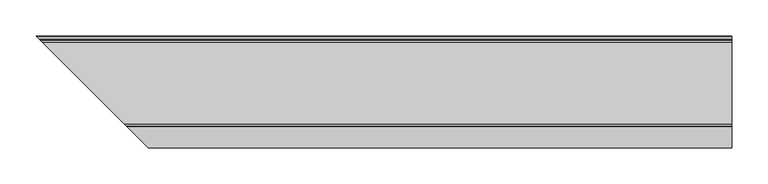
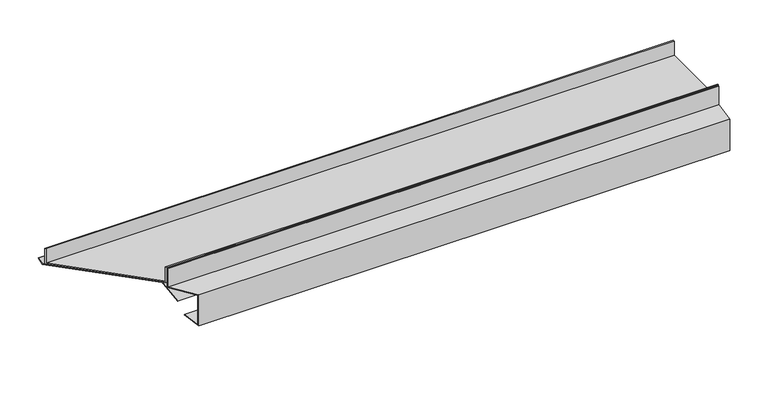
"""IFC4 building model written with IfcOpenShell, lengths in millimetres: proxy geometry, АК1_1 Примыкание к фундаментной балке : АК1_1 Примыкание к фундаментной балке."""

from ifc_helpers import new_model, si_unit, origin, place, context, project, spatial, faceted_brep, source, transform, mapped, element, save


def generic_models_938f7fc3(model_context):
    return source(origin(), model_context, "Body", "Brep", [
        faceted_brep([(-116.5, 116.5, 9.0), (-120.7449534, 120.7449534, 17.660254), (840.0, 120.7449534, 17.660254), (840.0, 116.5, 9.0), (-1.5, 1.5, 9.0), (840.0, 1.5, 9.0), (0.0, 0.0, 6.4019238), (840.0, 0.0, 6.4019238), (840.0, -13.5, -16.9807621), (13.5, -13.5, -16.9807621), (14.3660254, -14.3660254, -16.4807621), (840.0, -14.3660254, -16.4807621), (-0.9226497, 0.9226497, 10.0), (0.0, 0.0, 8.4019238), (840.0, 0.0, 8.4019238), (840.0, 0.9226497, 10.0), (-115.9226497, 115.9226497, 10.0), (840.0, 115.9226497, 10.0), (-119.8842356, 119.8842356, 18.0821477), (840.0, 119.8842356, 18.0821477)], [[[0, 1, 2, 3]], [[4, 0, 3, 5]], [[6, 4, 5, 7, 8, 9]], [[10, 9, 8, 11]], [[12, 13, 10, 11, 14, 15]], [[16, 12, 15, 17]], [[18, 16, 17, 19]], [[1, 18, 19, 2]], [[6, 13, 12, 16, 18, 1, 0, 4]], [[13, 6, 9, 10]], [[14, 7, 5, 3, 2, 19, 17, 15]], [[7, 14, 11, 8]]]),
        faceted_brep([(4.5, -4.5, 33.6294353), (4.5, -4.5, 3.6294353), (840.0, -4.5, 3.6294353), (840.0, -4.5, 33.6294353), (3.5, -3.5, 33.6294353), (840.0, -3.5, 33.6294353), (3.5, -3.5, 2.7903356), (840.0, -3.5, 2.7903356), (33.0442326, -33.0442326, -2.4191097), (840.0, -33.0442326, -2.4191097), (33.0442326, -33.0442326, -49.1657965), (840.0, -33.0442326, -49.1657965), (20.6092037, -20.6092037, -36.7307676), (840.0, -20.6092037, -36.7307676), (19.902097, -19.902097, -37.4378744), (840.0, -19.902097, -37.4378744), (34.0442326, -34.0442326, -51.58001), (840.0, -34.0442326, -51.58001), (34.0442326, -34.0442326, -1.58001), (840.0, -34.0442326, -1.58001)], [[[0, 1, 2, 3]], [[4, 0, 3, 5]], [[6, 4, 5, 7]], [[8, 6, 7, 9]], [[10, 8, 9, 11]], [[12, 10, 11, 13]], [[14, 12, 13, 15]], [[16, 14, 15, 17]], [[18, 16, 17, 19]], [[1, 18, 19, 2]], [[1, 0, 4, 6, 8, 10, 12, 14, 16, 18]], [[3, 2, 19, 17, 15, 13, 11, 9, 7, 5]]]),
        faceted_brep([(3.5, -3.5, 35.0), (3.5, -3.5, 10.0), (840.0, -3.5, 10.0), (840.0, -3.5, 35.0), (1.5, -1.5, 35.0), (840.0, -1.5, 35.0), (1.5, -1.5, 12.0), (840.0, -1.5, 12.0), (-112.5, 112.5, 12.0), (0.0, 0.0, 12.0), (840.0, 0.0, 12.0), (840.0, 112.5, 12.0), (-112.5, 112.5, 35.0), (840.0, 112.5, 35.0), (-114.5, 114.5, 35.0), (840.0, 114.5, 35.0), (-114.5, 114.5, 10.0), (840.0, 114.5, 10.0), (0.0, 0.0, 10.0), (840.0, 0.0, 10.0)], [[[0, 1, 2, 3]], [[4, 0, 3, 5]], [[6, 4, 5, 7]], [[8, 9, 6, 7, 10, 11]], [[12, 8, 11, 13]], [[14, 12, 13, 15]], [[16, 14, 15, 17]], [[18, 16, 17, 19, 2, 1]], [[9, 18, 1, 0, 4, 6]], [[19, 10, 7, 5, 3, 2]], [[18, 9, 8, 12, 14, 16]], [[10, 19, 17, 15, 13, 11]]]),
    ])


if __name__ == "__main__":
    model = new_model("IFC4")
    model_context = context("Model", 3, world=origin())
    ifc_project = project(units=[si_unit("LENGTHUNIT", "METRE", prefix="MILLI")], contexts=[model_context])
    site = spatial("IfcSite", under=ifc_project)
    building = spatial("IfcBuilding", under=site)
    placement = place(None, origin())
    generic_models_shape = generic_models_938f7fc3(model_context)
    element("IfcBuildingElementProxy", 1, Name="АК1_1 Примыкание к фундаментной балке : АК1_1 Примыкание к фундаментной балке", ObjectType="АК1_1 Примыкание к фундаментной балке : АК1_1 Примыкание к фундаментной балке", at=placement, inside=building, context=model_context, shape_type="MappedRepresentation", body=[
        mapped(generic_models_shape, transform((0.0, 0.0, 0.0), x_axis=(1.0, 0.0, 0.0), y_axis=(0.0, 1.0, 0.0), z_axis=(0.0, 0.0, 1.0))),
    ])
    save(model, "model.ifc")
